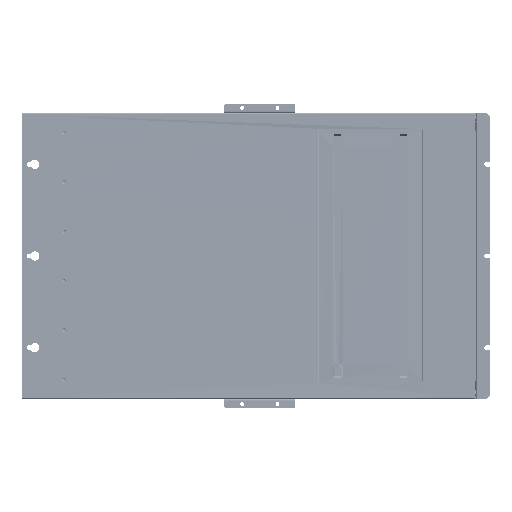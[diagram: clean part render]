
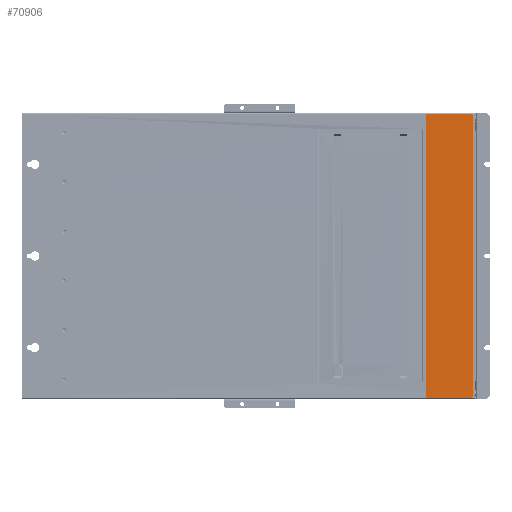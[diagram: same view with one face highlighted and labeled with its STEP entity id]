
A CAD part, left-side view. The second image highlights one B-rep face of the part: STEP entity #70906.
In plain terms, the highlighted planar face has unit normal (-1, 0, 0).
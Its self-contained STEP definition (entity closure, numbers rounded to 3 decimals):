
#2385 = VERTEX_POINT ( 'NONE', #124948 ) ;
#5067 = CARTESIAN_POINT ( 'NONE',  ( -193.15, -476.928, -401.999 ) ) ;
#13220 = CARTESIAN_POINT ( 'NONE',  ( -193.15, -607.5, -398. ) ) ;
#15369 = CARTESIAN_POINT ( 'NONE',  ( -193.15, -475., 132.667 ) ) ;
#19987 = CARTESIAN_POINT ( 'NONE',  ( -193.15, -476.928, 401.999 ) ) ;
#20386 = CARTESIAN_POINT ( 'NONE',  ( -193.15, -475.13, -399.307 ) ) ;
#21023 = CARTESIAN_POINT ( 'NONE',  ( -193.15, -602.5, -403. ) ) ;
#21101 = CARTESIAN_POINT ( 'NONE',  ( -193.15, -605.573, 401.998 ) ) ;
#29911 = CARTESIAN_POINT ( 'NONE',  ( -193.15, -605.018, -402.369 ) ) ;
#33066 = B_SPLINE_CURVE_WITH_KNOTS ( 'NONE', 3,
 ( #21023, #174030, #47445, #132302 ),
 .UNSPECIFIED., .F., .F.,
 ( 4, 4 ),
 ( 0., 1. ),
 .UNSPECIFIED. ) ;
#33294 = CARTESIAN_POINT ( 'NONE',  ( -193.15, -602.5, 403. ) ) ;
#45420 = CARTESIAN_POINT ( 'NONE',  ( -193.15, -479.344, -403. ) ) ;
#46188 = CARTESIAN_POINT ( 'NONE',  ( -193.15, -475., -398. ) ) ;
#46816 = CARTESIAN_POINT ( 'NONE',  ( -193.15, -476.001, -401.072 ) ) ;
#47070 = CARTESIAN_POINT ( 'NONE',  ( -193.15, -607.5, 398. ) ) ;
#47445 = CARTESIAN_POINT ( 'NONE',  ( -193.15, -520.833, -403. ) ) ;
#48399 = EDGE_CURVE ( 'NONE', #106513, #82074, #156563, .T. ) ;
#49508 = VERTEX_POINT ( 'NONE', #47070 ) ;
#54057 = CARTESIAN_POINT ( 'NONE',  ( -193.15, -480., 403. ) ) ;
#56056 = CARTESIAN_POINT ( 'NONE',  ( -193.15, -602.5, 403. ) ) ;
#63526 = AXIS2_PLACEMENT_3D ( 'NONE', #215931, #197802, #240996 ) ;
#64510 = CARTESIAN_POINT ( 'NONE',  ( -193.15, -475.13, 399.307 ) ) ;
#64913 = CARTESIAN_POINT ( 'NONE',  ( -193.15, -475., -398. ) ) ;
#70906 = ADVANCED_FACE ( 'NONE', ( #90650 ), #259107, .F. ) ;
#80170 = CARTESIAN_POINT ( 'NONE',  ( -193.15, -607.5, 398. ) ) ;
#82074 = VERTEX_POINT ( 'NONE', #172321 ) ;
#83978 = CARTESIAN_POINT ( 'NONE',  ( -193.15, -480., 403. ) ) ;
#84364 = CARTESIAN_POINT ( 'NONE',  ( -193.15, -477.481, -402.368 ) ) ;
#90650 = FACE_OUTER_BOUND ( 'NONE', #115957, .T. ) ;
#92538 = CARTESIAN_POINT ( 'NONE',  ( -193.15, -602.5, -403. ) ) ;
#93904 = CARTESIAN_POINT ( 'NONE',  ( -193.15, -607.5, -398.654 ) ) ;
#97761 = CARTESIAN_POINT ( 'NONE',  ( -193.15, -607.5, -398. ) ) ;
#103206 = CARTESIAN_POINT ( 'NONE',  ( -193.15, -606.498, 401.073 ) ) ;
#103213 = ORIENTED_EDGE ( 'NONE', *, *, #256319, .F. ) ;
#104585 = CARTESIAN_POINT ( 'NONE',  ( -193.15, -607.5, 398. ) ) ;
#104844 = CARTESIAN_POINT ( 'NONE',  ( -193.15, -477.481, 402.368 ) ) ;
#105933 = CARTESIAN_POINT ( 'NONE',  ( -193.15, -607.37, 399.309 ) ) ;
#106513 = VERTEX_POINT ( 'NONE', #54057 ) ;
#112826 = VERTEX_POINT ( 'NONE', #46188 ) ;
#114729 = CARTESIAN_POINT ( 'NONE',  ( -193.15, -603.154, -403. ) ) ;
#115957 = EDGE_LOOP ( 'NONE', ( #214974, #155404, #210697, #216537, #144449, #103213, #179434, #148129 ) ) ;
#124599 = B_SPLINE_CURVE_WITH_KNOTS ( 'NONE', 3,
 ( #125689, #210627, #64510, #127063, #255161, #19987, #104844, #189747, #274597, #83978 ),
 .UNSPECIFIED., .F., .F.,
 ( 4, 2, 2, 2, 4 ),
 ( -1., -0.75, -0.5, -0.25, 0. ),
 .UNSPECIFIED. ) ;
#124948 = CARTESIAN_POINT ( 'NONE',  ( -193.15, -475., 398. ) ) ;
#125689 = CARTESIAN_POINT ( 'NONE',  ( -193.15, -475., 398. ) ) ;
#127063 = CARTESIAN_POINT ( 'NONE',  ( -193.15, -475.632, 400.519 ) ) ;
#127473 = CARTESIAN_POINT ( 'NONE',  ( -193.15, -478.693, -402.87 ) ) ;
#128406 = CARTESIAN_POINT ( 'NONE',  ( -193.15, -607.5, -132.667 ) ) ;
#132302 = CARTESIAN_POINT ( 'NONE',  ( -193.15, -480., -403. ) ) ;
#134665 = EDGE_CURVE ( 'NONE', #259693, #150823, #33066, .T. ) ;
#138448 = CARTESIAN_POINT ( 'NONE',  ( -193.15, -603.809, -402.87 ) ) ;
#140904 = CARTESIAN_POINT ( 'NONE',  ( -193.15, -603.154, 403. ) ) ;
#144449 = ORIENTED_EDGE ( 'NONE', *, *, #48399, .F. ) ;
#146564 = B_SPLINE_CURVE_WITH_KNOTS ( 'NONE', 3,
 ( #181020, #205939, #15369, #225510 ),
 .UNSPECIFIED., .F., .F.,
 ( 4, 4 ),
 ( 0., 1. ),
 .UNSPECIFIED. ) ;
#148129 = ORIENTED_EDGE ( 'NONE', *, *, #206018, .F. ) ;
#150823 = VERTEX_POINT ( 'NONE', #229778 ) ;
#155404 = ORIENTED_EDGE ( 'NONE', *, *, #229404, .F. ) ;
#156563 = B_SPLINE_CURVE_WITH_KNOTS ( 'NONE', 3,
 ( #268399, #162640, #204386, #33294 ),
 .UNSPECIFIED., .F., .F.,
 ( 4, 4 ),
 ( 0., 1. ),
 .UNSPECIFIED. ) ;
#162640 = CARTESIAN_POINT ( 'NONE',  ( -193.15, -520.833, 403. ) ) ;
#164494 = CARTESIAN_POINT ( 'NONE',  ( -193.15, -605.018, 402.369 ) ) ;
#165909 = CARTESIAN_POINT ( 'NONE',  ( -193.15, -602.5, -403. ) ) ;
#170572 = EDGE_CURVE ( 'NONE', #49508, #226653, #216834, .T. ) ;
#170637 = CARTESIAN_POINT ( 'NONE',  ( -193.15, -475., -398.657 ) ) ;
#172321 = CARTESIAN_POINT ( 'NONE',  ( -193.15, -602.5, 403. ) ) ;
#174030 = CARTESIAN_POINT ( 'NONE',  ( -193.15, -561.667, -403. ) ) ;
#179434 = ORIENTED_EDGE ( 'NONE', *, *, #217294, .F. ) ;
#181020 = CARTESIAN_POINT ( 'NONE',  ( -193.15, -475., -398. ) ) ;
#189747 = CARTESIAN_POINT ( 'NONE',  ( -193.15, -478.693, 402.87 ) ) ;
#190867 = CARTESIAN_POINT ( 'NONE',  ( -193.15, -607.5, 398.654 ) ) ;
#197802 = DIRECTION ( 'NONE',  ( 1., 0., 0. ) ) ;
#204386 = CARTESIAN_POINT ( 'NONE',  ( -193.15, -561.667, 403. ) ) ;
#205939 = CARTESIAN_POINT ( 'NONE',  ( -193.15, -475., -132.667 ) ) ;
#206018 = EDGE_CURVE ( 'NONE', #150823, #112826, #262154, .T. ) ;
#210627 = CARTESIAN_POINT ( 'NONE',  ( -193.15, -475., 398.656 ) ) ;
#210697 = ORIENTED_EDGE ( 'NONE', *, *, #170572, .F. ) ;
#213297 = CARTESIAN_POINT ( 'NONE',  ( -193.15, -607.5, -398. ) ) ;
#214974 = ORIENTED_EDGE ( 'NONE', *, *, #134665, .F. ) ;
#215931 = CARTESIAN_POINT ( 'NONE',  ( -193.15, -505., 0. ) ) ;
#216525 = CARTESIAN_POINT ( 'NONE',  ( -193.15, -475.632, -400.519 ) ) ;
#216537 = ORIENTED_EDGE ( 'NONE', *, *, #269519, .F. ) ;
#216834 = B_SPLINE_CURVE_WITH_KNOTS ( 'NONE', 3,
 ( #80170, #249996, #128406, #213297 ),
 .UNSPECIFIED., .F., .F.,
 ( 4, 4 ),
 ( 0., 1. ),
 .UNSPECIFIED. ) ;
#217294 = EDGE_CURVE ( 'NONE', #112826, #2385, #146564, .T. ) ;
#220567 = CARTESIAN_POINT ( 'NONE',  ( -193.15, -605.573, -401.998 ) ) ;
#225510 = CARTESIAN_POINT ( 'NONE',  ( -193.15, -475., 398. ) ) ;
#226653 = VERTEX_POINT ( 'NONE', #97761 ) ;
#229028 = B_SPLINE_CURVE_WITH_KNOTS ( 'NONE', 3,
 ( #56056, #140904, #232662, #164494, #21101, #103206, #253514, #105933, #190867, #104585 ),
 .UNSPECIFIED., .F., .F.,
 ( 4, 2, 2, 2, 4 ),
 ( 0., 0.25, 0.5, 0.75, 1. ),
 .UNSPECIFIED. ) ;
#229404 = EDGE_CURVE ( 'NONE', #226653, #259693, #247958, .T. ) ;
#229778 = CARTESIAN_POINT ( 'NONE',  ( -193.15, -480., -403. ) ) ;
#232662 = CARTESIAN_POINT ( 'NONE',  ( -193.15, -603.809, 402.87 ) ) ;
#236098 = CARTESIAN_POINT ( 'NONE',  ( -193.15, -480., -403. ) ) ;
#240996 = DIRECTION ( 'NONE',  ( 0., 1., 0. ) ) ;
#245628 = CARTESIAN_POINT ( 'NONE',  ( -193.15, -606.869, -400.518 ) ) ;
#246989 = CARTESIAN_POINT ( 'NONE',  ( -193.15, -607.37, -399.309 ) ) ;
#247958 = B_SPLINE_CURVE_WITH_KNOTS ( 'NONE', 3,
 ( #13220, #93904, #246989, #245628, #267807, #220567, #29911, #138448, #114729, #92538 ),
 .UNSPECIFIED., .F., .F.,
 ( 4, 2, 2, 2, 4 ),
 ( 0., 0.25, 0.5, 0.75, 1. ),
 .UNSPECIFIED. ) ;
#249996 = CARTESIAN_POINT ( 'NONE',  ( -193.15, -607.5, 132.667 ) ) ;
#253514 = CARTESIAN_POINT ( 'NONE',  ( -193.15, -606.869, 400.518 ) ) ;
#255161 = CARTESIAN_POINT ( 'NONE',  ( -193.15, -476.001, 401.072 ) ) ;
#256319 = EDGE_CURVE ( 'NONE', #2385, #106513, #124599, .T. ) ;
#259107 = PLANE ( 'NONE',  #63526 ) ;
#259693 = VERTEX_POINT ( 'NONE', #165909 ) ;
#262154 = B_SPLINE_CURVE_WITH_KNOTS ( 'NONE', 3,
 ( #236098, #45420, #127473, #84364, #5067, #46816, #216525, #20386, #170637, #64913 ),
 .UNSPECIFIED., .F., .F.,
 ( 4, 2, 2, 2, 4 ),
 ( -1., -0.75, -0.5, -0.25, 0. ),
 .UNSPECIFIED. ) ;
#267807 = CARTESIAN_POINT ( 'NONE',  ( -193.15, -606.498, -401.073 ) ) ;
#268399 = CARTESIAN_POINT ( 'NONE',  ( -193.15, -480., 403. ) ) ;
#269519 = EDGE_CURVE ( 'NONE', #82074, #49508, #229028, .T. ) ;
#274597 = CARTESIAN_POINT ( 'NONE',  ( -193.15, -479.343, 403. ) ) ;
